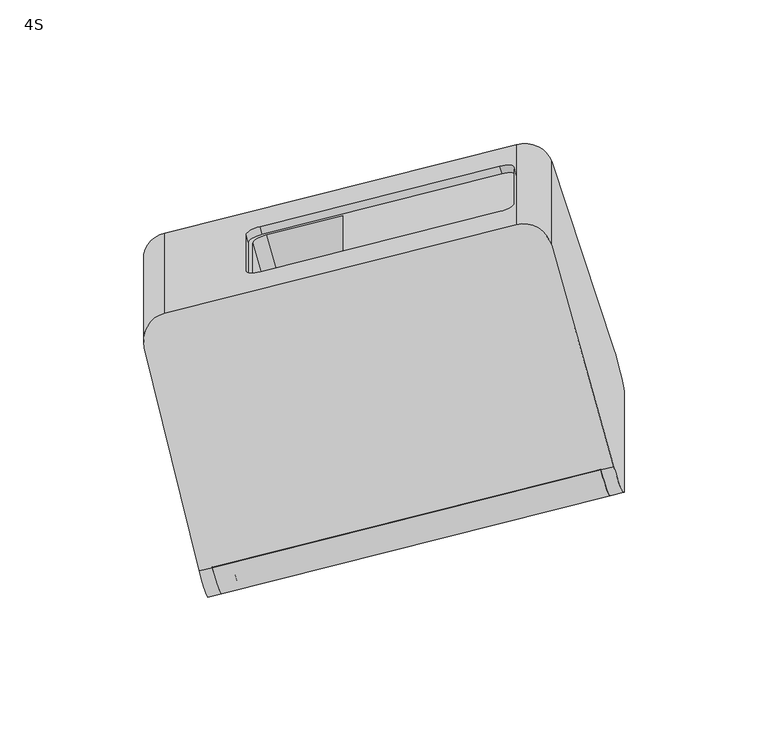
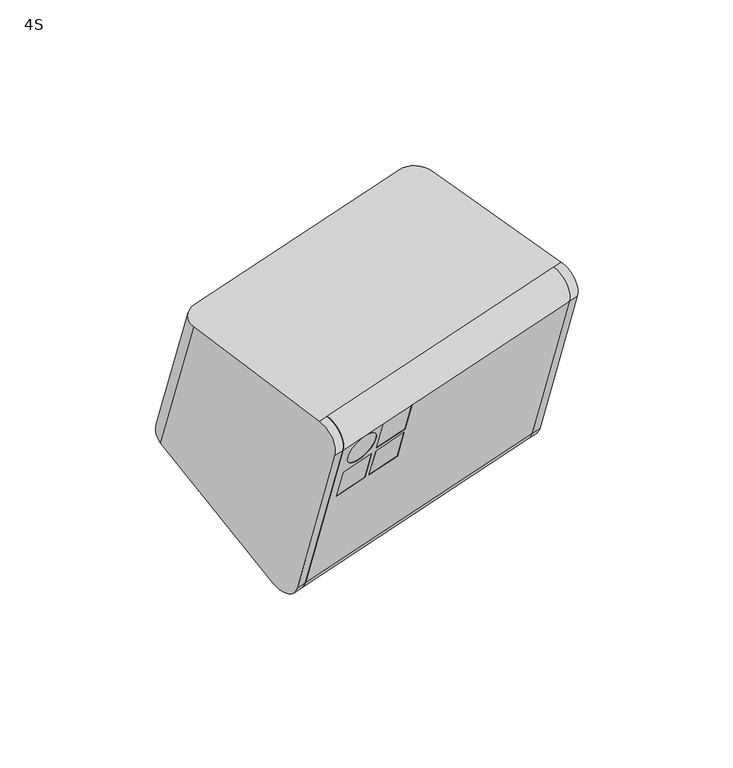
"""IFC4 building model written with IfcOpenShell, lengths in millimetres: proxy geometry, d&b xS-Series 4S Point Source : 4S."""

from ifc_helpers import new_model, si_unit, point, frame, frame_2d, origin, place, context, project, spatial, polyline, circle_curve, ellipse_curve, trimmed, segment, composite_curve, outline, extrude, source, transform, mapped, element, save
from ifc_brep_helpers import plane_surface, cylinder_surface, revolved_surface, advanced_brep


def proxy_4s_2210255e(model_context):
    return source(origin(), model_context, "Body", "SolidModel", [
        extrude(outline(composite_curve([segment(polyline([(-2.2870286, -11.5470263), (-2.2870286, 97.3792888)]), True, "CONTINUOUS"), segment(trimmed(circle_curve(frame_2d((0.0, 91.8322626)), 6.0), [point((-2.2870286, 97.3792888))], [point((6.0, 91.8322626))], False, "CARTESIAN"), True, "CONTINUOUS"), segment(polyline([(6.0, 91.8322626), (6.0, -6.0)]), True, "CONTINUOUS"), segment(trimmed(circle_curve(frame_2d((0.0, -6.0)), 6.0), [point((6.0, -6.0))], [point((-2.2870286, -11.5470263))], False, "CARTESIAN"), True, "CONTINUOUS")], self_intersect=False)), frame((-57.262046, -68.0098405, 20.9168354), z_axis=(0.9659258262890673, 0.24321034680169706, 0.0885213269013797), x_axis=(0.2588190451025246, -0.907673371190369, -0.33036608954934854)), (0.0, 0.0, 1.0), 140.0),
        advanced_brep(
        [(-13.3631889, -63.6428721, 10.0140196), (-14.6572841, -59.1045052, 11.66585), (-31.5609861, -63.3606863, 10.1167268), (-30.2668909, -67.8990532, 8.4648963), (-31.5609861, -69.3460388, 26.5613476), (-30.2668909, -73.8844057, 24.9095172), (-14.6572841, -65.0898578, 28.1104709), (-13.3631889, -69.6282246, 26.4586404), (-13.3631889, -56.8024692, -8.7798329), (-14.6572841, -52.2641024, -7.1280024), (-31.5609861, -56.5202835, -8.6771256), (-30.2668909, -61.0586503, -10.3289561), (-31.5609861, -62.505636, 7.7674952), (-30.2668909, -67.0440028, 6.1156648), (-14.6572841, -58.2494549, 9.3166184), (-13.3631889, -62.7878217, 7.664788), (-32.6817054, -61.6666762, -10.5502594), (-33.9758007, -57.1283093, -8.898429), (-50.8795026, -61.3844904, -10.4475522), (-49.5854074, -65.9228572, -12.0993826), (-50.8795026, -67.3698429, 5.9970687), (-49.5854074, -71.9082098, 4.3452382), (-33.9758007, -63.1136618, 7.5461919), (-32.6817054, -67.6520287, 5.8943615), (-49.5854074, -75.7559364, 14.9167802), (-50.8795026, -71.2175695, 16.5686107), (-33.9758007, -66.9613884, 18.1177339), (-32.6817054, -71.4997553, 16.4659034), (80.8145791, -12.5363154, -56.6183053), (77.3756431, 3.2039746, -62.3394605), (77.3756431, 1.4211613, -57.4412212), (79.5204839, -7.9979486, -54.9664748), (79.5204839, -41.458553, 36.9657804), (77.3756431, -35.8338326, 44.9160332), (77.3756431, -37.6166459, 49.8142725), (80.8145791, -45.9969199, 35.3139499), (-54.4150365, -46.585764, -69.011291), (-54.4150365, -80.0463684, 22.9209641), (-57.8539726, -71.6660944, 37.4212867), (-57.8539726, -69.8832811, 32.5230475), (-55.7091318, -75.5080016, 24.5727946), (-55.7091318, -42.0473971, -67.3594606), (-57.8539726, -32.6282872, -69.834207), (-57.8539726, -30.8454739, -74.7324463)],
        [
            (0, 1),
            (1, 2),
            (2, 3),
            (3, 0),
            (2, 4),
            (4, 5),
            (5, 3),
            (4, 6),
            (6, 7),
            (7, 5),
            (0, 7),
            (6, 1),
            (8, 9),
            (9, 10),
            (10, 11),
            (11, 8),
            (10, 12),
            (12, 13),
            (13, 11),
            (12, 14),
            (14, 15),
            (15, 13),
            (8, 15),
            (14, 9),
            (16, 17),
            (17, 18),
            (18, 19),
            (19, 16),
            (18, 20),
            (20, 21),
            (21, 19),
            (20, 22),
            (22, 23),
            (23, 21),
            (16, 23),
            (22, 17),
            (24, 25),
            (25, 26, circle_curve(frame((-42.4276517, -69.089479, 17.3431723), z_axis=(-0.25881904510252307, 0.9076733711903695, 0.3303660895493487), x_axis=(0.9659258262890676, 0.24321034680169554, 0.08852132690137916)), 8.75)),
            (26, 27),
            (27, 24, circle_curve(frame((-41.1335564, -73.6278458, 15.6913418), z_axis=(0.25881904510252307, -0.9076733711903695, -0.3303660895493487), x_axis=(0.9659258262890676, 0.24321034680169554, 0.08852132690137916)), 8.75)),
            (24, 27, circle_curve(frame((-41.1335564, -73.6278458, 15.6913418), z_axis=(0.25881904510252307, -0.9076733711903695, -0.3303660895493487), x_axis=(0.9659258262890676, 0.24321034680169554, 0.08852132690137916)), 8.75)),
            (26, 25, circle_curve(frame((-42.4276517, -69.089479, 17.3431723), z_axis=(-0.25881904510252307, 0.9076733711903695, 0.3303660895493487), x_axis=(0.9659258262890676, 0.24321034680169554, 0.08852132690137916)), 8.75)),
            (28, 29, circle_curve(frame((77.9675696, -2.5519083, -52.9842783), z_axis=(0.9659258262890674, 0.24321034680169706, 0.08852132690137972), x_axis=(0.25881904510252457, -0.9076733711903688, -0.33036608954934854)), 11.0)),
            (29, 30),
            (30, 31, circle_curve(frame((77.9675696, -2.5519083, -52.9842783), z_axis=(-0.9659258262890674, -0.24321034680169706, -0.08852132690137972), x_axis=(0.25881904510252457, -0.9076733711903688, -0.33036608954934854)), 6.0)),
            (31, 32),
            (32, 33, circle_curve(frame((77.9675696, -36.0125128, 38.9479769), z_axis=(-0.9659258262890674, -0.24321034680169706, -0.08852132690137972), x_axis=(0.25881904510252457, -0.9076733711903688, -0.33036608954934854)), 6.0)),
            (33, 34),
            (34, 35, circle_curve(frame((77.9675696, -36.0125128, 38.9479769), z_axis=(0.9659258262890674, 0.24321034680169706, 0.08852132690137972), x_axis=(0.25881904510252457, -0.9076733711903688, -0.33036608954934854)), 11.0)),
            (35, 28),
            (36, 37),
            (37, 38, circle_curve(frame((-57.262046, -70.0619614, 26.5549911), z_axis=(-0.9659258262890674, -0.24321034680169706, -0.08852132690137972), x_axis=(0.25881904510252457, -0.9076733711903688, -0.33036608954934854)), 11.0)),
            (38, 39),
            (39, 40, circle_curve(frame((-57.262046, -70.0619614, 26.5549911), z_axis=(0.9659258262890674, 0.24321034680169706, 0.08852132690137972), x_axis=(0.25881904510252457, -0.9076733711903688, -0.33036608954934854)), 6.0)),
            (40, 41),
            (41, 42, circle_curve(frame((-57.262046, -36.6013569, -65.3772641), z_axis=(0.9659258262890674, 0.24321034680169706, 0.08852132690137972), x_axis=(0.25881904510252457, -0.9076733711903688, -0.33036608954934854)), 6.0)),
            (42, 43),
            (43, 36, circle_curve(frame((-57.262046, -36.6013569, -65.3772641), z_axis=(-0.9659258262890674, -0.24321034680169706, -0.08852132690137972), x_axis=(0.25881904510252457, -0.9076733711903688, -0.33036608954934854)), 11.0)),
            (28, 36),
            (43, 29),
            (42, 30),
            (41, 31),
            (40, 32),
            (39, 33),
            (38, 34),
            (37, 35),
        ],
        [
            plane_surface(frame((-30.2668909, -67.8990532, 8.4648963), z_axis=(0.0, -0.34202014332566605, 0.9396926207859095), x_axis=(-0.258819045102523, 0.9076733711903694, 0.3303660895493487))),
            plane_surface(frame((-30.2668909, -73.8844057, 24.9095172), z_axis=(0.9659258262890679, 0.24321034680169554, 0.08852132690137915), x_axis=(-0.258819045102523, 0.9076733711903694, 0.3303660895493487))),
            plane_surface(frame((-13.3631889, -69.6282246, 26.4586404), z_axis=(0.0, 0.34202014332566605, -0.9396926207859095), x_axis=(-0.258819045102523, 0.9076733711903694, 0.3303660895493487))),
            plane_surface(frame((-13.3631889, -63.6428721, 10.0140196), z_axis=(-0.9659258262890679, -0.24321034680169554, -0.08852132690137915), x_axis=(-0.258819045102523, 0.9076733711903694, 0.3303660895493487))),
            plane_surface(frame((-30.2668909, -61.0586503, -10.3289561), z_axis=(0.0, -0.34202014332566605, 0.9396926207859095), x_axis=(-0.258819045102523, 0.9076733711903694, 0.3303660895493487))),
            plane_surface(frame((-30.2668909, -67.0440028, 6.1156648), z_axis=(0.9659258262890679, 0.24321034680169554, 0.08852132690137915), x_axis=(-0.258819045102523, 0.9076733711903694, 0.3303660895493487))),
            plane_surface(frame((-13.3631889, -62.7878217, 7.664788), z_axis=(0.0, 0.34202014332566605, -0.9396926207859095), x_axis=(-0.258819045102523, 0.9076733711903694, 0.3303660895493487))),
            plane_surface(frame((-13.3631889, -56.8024692, -8.7798329), z_axis=(-0.9659258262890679, -0.24321034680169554, -0.08852132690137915), x_axis=(-0.258819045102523, 0.9076733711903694, 0.3303660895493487))),
            plane_surface(frame((-49.5854074, -65.9228572, -12.0993826), z_axis=(0.0, -0.34202014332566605, 0.9396926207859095), x_axis=(-0.258819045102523, 0.9076733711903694, 0.3303660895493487))),
            plane_surface(frame((-49.5854074, -71.9082098, 4.3452382), z_axis=(0.9659258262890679, 0.24321034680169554, 0.08852132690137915), x_axis=(-0.258819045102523, 0.9076733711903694, 0.3303660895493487))),
            plane_surface(frame((-32.6817054, -67.6520287, 5.8943615), z_axis=(0.0, 0.34202014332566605, -0.9396926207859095), x_axis=(-0.258819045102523, 0.9076733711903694, 0.3303660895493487))),
            plane_surface(frame((-32.6817054, -61.6666762, -10.5502594), z_axis=(-0.9659258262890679, -0.24321034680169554, -0.08852132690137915), x_axis=(-0.258819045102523, 0.9076733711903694, 0.3303660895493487))),
            revolved_surface(polyline([(-32.68170542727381, -71.49975533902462, 16.465903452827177), (-33.97580067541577, -66.96138840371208, 18.11773392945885)]), (-17.5169117, -156.4509608, -14.4538067), (0.258819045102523, -0.9076733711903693, -0.33036608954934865)),
            plane_surface(frame((80.8145791, -12.5363154, -56.6183053), z_axis=(0.9659258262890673, 0.24321034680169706, 0.0885213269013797), x_axis=(0.0, 0.342020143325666, -0.9396926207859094))),
            plane_surface(frame((-54.4150365, -46.585764, -69.011291), z_axis=(-0.9659258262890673, -0.24321034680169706, -0.0885213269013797), x_axis=(0.0, -0.342020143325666, 0.9396926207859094))),
            cylinder_surface(frame((-57.262046, -36.6013569, -65.3772641), z_axis=(0.9659258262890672, 0.243210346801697, 0.0885213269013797), x_axis=(0.25881904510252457, -0.9076733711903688, -0.33036608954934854)), 11.0),
            plane_surface(frame((77.3756431, 3.2039746, -62.3394605), z_axis=(-0.2588190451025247, 0.9076733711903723, 0.3303660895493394), x_axis=(-0.9659258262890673, -0.24321034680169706, -0.08852132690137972))),
            revolved_surface(polyline([(-55.70913178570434, -42.04739714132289, -67.35946064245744), (79.52048393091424, -7.997948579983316, -54.96647487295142)]), (-57.262046, -36.6013569, -65.3772641), (-0.9659258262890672, -0.243210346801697, -0.0885213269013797)),
            plane_surface(frame((79.5204839, -7.9979486, -54.9664748), z_axis=(-0.2588190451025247, 0.9076733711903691, 0.3303660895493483), x_axis=(-0.9659258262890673, -0.24321034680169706, -0.08852132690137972))),
            revolved_surface(polyline([(-55.70913178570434, -75.5080016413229, 24.572794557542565), (79.52048393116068, -41.45855307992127, 36.965780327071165)]), (-57.262046, -70.0619614, 26.5549911), (-0.9659258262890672, -0.243210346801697, -0.0885213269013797)),
            plane_surface(frame((77.3756431, -35.8338326, 44.9160332), z_axis=(-0.2588190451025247, 0.9076733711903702, 0.33036608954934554), x_axis=(-0.9659258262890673, -0.24321034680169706, -0.08852132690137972))),
            cylinder_surface(frame((-57.262046, -70.0619614, 26.5549911), z_axis=(0.9659258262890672, 0.243210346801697, 0.0885213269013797), x_axis=(0.25881904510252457, -0.9076733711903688, -0.33036608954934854)), 11.0),
            plane_surface(frame((80.8145791, -45.9969199, 35.3139499), z_axis=(0.2588190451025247, -0.907673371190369, -0.3303660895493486), x_axis=(-0.9659258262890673, -0.24321034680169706, -0.08852132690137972))),
        ],
        [
            (0, [[1, 2, 3, 4]]),
            (1, [[-3, 5, 6, 7]]),
            (2, [[-6, 8, 9, 10]]),
            (3, [[-1, 11, -9, 12]]),
            (4, [[13, 14, 15, 16]]),
            (5, [[-15, 17, 18, 19]]),
            (6, [[-18, 20, 21, 22]]),
            (7, [[-13, 23, -21, 24]]),
            (8, [[25, 26, 27, 28]]),
            (9, [[-27, 29, 30, 31]]),
            (10, [[-30, 32, 33, 34]]),
            (11, [[-25, 35, -33, 36]]),
            (12, [[37, 38, 39, 40]]),
            (12, [[-37, 41, -39, 42]]),
            (13, [[43, 44, 45, 46, 47, 48, 49, 50]]),
            (14, [[51, 52, 53, 54, 55, 56, 57, 58]]),
            (15, [[-43, 59, -58, 60]]),
            (16, [[-44, -60, -57, 61]]),
            (17, [[-45, -61, -56, 62]]),
            (18, [[-46, -62, -55, 63], [-2, -12, -8, -5], [-14, -24, -20, -17], [-26, -36, -32, -29], [-38, -42]]),
            (19, [[-47, -63, -54, 64]]),
            (20, [[-48, -64, -53, 65]]),
            (21, [[-49, -65, -52, 66]]),
            (22, [[-50, -66, -51, -59], [-4, -7, -10, -11], [-16, -19, -22, -23], [-28, -31, -34, -35], [-40, -41]]),
        ],
    ),
        extrude(outline(polyline([(-1e-07, -17.5), (0.0, 0.0), (5.0, 0.0), (5.0, -17.5000001), (-1e-07, -17.5)])), frame((-30.2668909, -67.8939267, 8.4508115), z_axis=(0.0, -0.34202014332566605, 0.9396926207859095), x_axis=(-0.258819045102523, 0.9076733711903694, 0.3303660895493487)), (0.0, 0.0, 1.0), 17.5),
        extrude(outline(polyline([(0.0, -17.5), (0.0, 0.0), (5.0000001, 0.0), (5.0000001, -17.5000001), (0.0, -17.5)])), frame((-30.2668909, -61.0535239, -10.3430409), z_axis=(0.0, -0.34202014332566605, 0.9396926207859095), x_axis=(-0.258819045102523, 0.9076733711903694, 0.3303660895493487)), (0.0, 0.0, 1.0), 17.5),
        extrude(outline(polyline([(0.0, -17.5), (0.0, 0.0), (5.0, 0.0), (5.0, -17.5), (0.0, -17.5)])), frame((-49.5854074, -65.9177308, -12.1134674), z_axis=(0.0, -0.34202014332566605, 0.9396926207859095), x_axis=(-0.258819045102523, 0.9076733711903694, 0.3303660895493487)), (0.0, 0.0, 1.0), 17.5),
        extrude(outline(composite_curve([segment(trimmed(circle_curve(frame_2d((-8.75, -28.75)), 8.75), [point((-8.75, -37.5))], [point((-8.7500001, -20.0))], False, "CARTESIAN"), True, "CONTINUOUS"), segment(trimmed(circle_curve(frame_2d((-8.75, -28.75)), 8.75), [point((-8.7500001, -20.0))], [point((-8.75, -37.5))], False, "CARTESIAN"), True, "CONTINUOUS")], self_intersect=False)), frame((-13.3631889, -69.6230982, 26.4445556), z_axis=(-0.25881904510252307, 0.9076733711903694, 0.3303660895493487), x_axis=(0.0, -0.342020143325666, 0.9396926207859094)), (0.0, 0.0, 1.0), 5.0),
        advanced_brep(
        [(43.0496763, 49.6485011, 42.6116789), (47.8793054, 52.5746536, 38.3558224), (47.8793054, 64.9291686, 4.4120713), (43.0496763, 65.4232176, -0.7289985), (-40.4941742, 44.3877216, -8.3852929), (-45.3238033, 41.4615692, -4.1294364), (-45.3238033, 29.1070541, 29.8143147), (-40.4941742, 28.6130051, 34.9553845), (-43.8075469, 30.0257162, 28.4781936), (-43.8075469, 41.3064631, -2.5154036), (-38.9779178, 44.2326155, -6.7712601), (-12.5010231, 50.8992296, -4.344811), (-12.5010231, 36.1982814, 36.0457125), (-38.9779178, 29.5316672, 33.6192634), (42.2732192, 52.3715212, 43.6027771), (47.1028483, 55.2976737, 39.3469207), (47.1028483, 67.6521887, 5.4031696), (42.2732192, 68.1462377, 0.2620998), (-41.2706313, 47.1107417, -7.3941946), (-46.1002604, 44.1845893, -3.1383381), (-46.1002604, 31.8300742, 30.805413), (-41.2706313, 31.3360253, 35.9464827), (-39.6664422, 26.7836891, -7.801261), (-39.6664422, 15.5029423, 23.1923362), (-34.8368131, 15.0088933, 28.3334059), (-8.3599184, 21.6755074, 30.759855), (-8.3599184, 36.3764557, -9.6306684), (-34.8368131, 29.7098416, -12.0571175), (80.8145791, -12.5363154, -56.6183053), (80.8145791, -45.9969199, 35.3139499), (77.3756431, -37.6166459, 49.8142725), (77.3756431, 3.2039746, -62.3394605), (-54.4150365, -46.585764, -69.011291), (-57.8539726, -30.8454739, -74.7324463), (-57.8539726, -71.6660944, 37.4212867), (-54.4150365, -80.0463684, 22.9209641), (-62.4109655, -31.9928786, -75.1500674), (-81.5317164, 34.1986651, -33.215143), (-74.4180399, 44.8382006, -27.1191476), (48.024575, 75.6680118, -15.898014), (60.2266227, 69.8919801, -20.2238387), (81.9387137, 4.3529096, -61.9212824), (-81.5317164, 4.847415, 47.4267539), (-62.4109655, -72.8134991, 37.0036656), (81.9387137, -36.4677109, 50.2324506), (60.2266227, 40.54073, 60.4180581), (48.024575, 47.7460135, 60.8170457), (-74.4180399, 16.9162024, 49.5959121), (85.595892, -11.3324292, -56.1801265), (85.595892, -44.7930337, 35.7521287), (-59.1902717, -47.7881199, -69.4489128), (-59.1902717, -81.2487243, 22.4833424)],
        [
            (0, 1, circle_curve(frame((43.0496763, 51.3586018, 37.9132158), z_axis=(-0.2588190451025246, 0.9076733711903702, 0.33036608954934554), x_axis=(0.0, -0.34202014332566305, 0.9396926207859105)), 5.0)),
            (1, 2),
            (2, 3, circle_curve(frame((43.0496763, 63.7131169, 3.9694647), z_axis=(-0.2588190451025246, 0.9076733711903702, 0.33036608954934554), x_axis=(0.0, -0.34202014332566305, 0.9396926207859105)), 5.0)),
            (3, 4),
            (4, 5, circle_curve(frame((-40.4941742, 42.6776209, -3.6868298), z_axis=(-0.2588190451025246, 0.9076733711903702, 0.33036608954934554), x_axis=(0.0, -0.34202014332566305, 0.9396926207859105)), 5.0)),
            (5, 6),
            (6, 7, circle_curve(frame((-40.4941742, 30.3231059, 30.2569214), z_axis=(-0.2588190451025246, 0.9076733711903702, 0.33036608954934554), x_axis=(0.0, -0.34202014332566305, 0.9396926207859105)), 5.0)),
            (7, 0),
            (8, 9),
            (9, 10, circle_curve(frame((-38.9779178, 42.5225148, -2.072797), z_axis=(0.2588190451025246, -0.9076733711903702, -0.33036608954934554), x_axis=(0.0, -0.34202014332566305, 0.9396926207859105)), 5.0)),
            (10, 11),
            (11, 12),
            (12, 13),
            (13, 8, circle_curve(frame((-38.9779178, 31.241768, 28.9208003), z_axis=(0.2588190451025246, -0.9076733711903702, -0.33036608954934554), x_axis=(0.0, -0.34202014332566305, 0.9396926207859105)), 5.0)),
            (0, 14),
            (14, 15, circle_curve(frame((42.2732192, 54.081622, 38.904314), z_axis=(-0.2588190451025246, 0.9076733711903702, 0.33036608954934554), x_axis=(0.0, -0.34202014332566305, 0.9396926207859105)), 5.0)),
            (15, 1),
            (15, 16),
            (16, 2),
            (16, 17, circle_curve(frame((42.2732192, 66.436137, 4.9605629), z_axis=(-0.2588190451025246, 0.9076733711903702, 0.33036608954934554), x_axis=(0.0, -0.34202014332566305, 0.9396926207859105)), 5.0)),
            (17, 3),
            (17, 18),
            (18, 4),
            (18, 19, circle_curve(frame((-41.2706313, 45.400641, -2.6957315), z_axis=(-0.2588190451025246, 0.9076733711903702, 0.33036608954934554), x_axis=(0.0, -0.34202014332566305, 0.9396926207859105)), 5.0)),
            (19, 5),
            (19, 20),
            (20, 6),
            (20, 21, circle_curve(frame((-41.2706313, 33.046126, 31.2480196), z_axis=(-0.2588190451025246, 0.9076733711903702, 0.33036608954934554), x_axis=(0.0, -0.34202014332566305, 0.9396926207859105)), 5.0)),
            (21, 7),
            (21, 14),
            (22, 23),
            (23, 24, circle_curve(frame((-34.8368131, 16.718994, 23.6349428), z_axis=(-0.2588190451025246, 0.9076733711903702, 0.33036608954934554), x_axis=(0.0, -0.34202014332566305, 0.9396926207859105)), 5.0)),
            (24, 25),
            (25, 26),
            (26, 27),
            (27, 22, circle_curve(frame((-34.8368131, 27.9997409, -7.3586544), z_axis=(-0.2588190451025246, 0.9076733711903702, 0.33036608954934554), x_axis=(0.0, -0.34202014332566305, 0.9396926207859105)), 5.0)),
            (28, 29),
            (29, 30, circle_curve(frame((77.9675696, -36.0125128, 38.9479769), z_axis=(-0.9659258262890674, -0.24321034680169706, -0.08852132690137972), x_axis=(0.25881904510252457, -0.9076733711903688, -0.33036608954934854)), 11.0)),
            (30, 31),
            (31, 28, circle_curve(frame((77.9675696, -2.5519083, -52.9842783), z_axis=(-0.9659258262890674, -0.24321034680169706, -0.08852132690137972), x_axis=(0.25881904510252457, -0.9076733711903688, -0.33036608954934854)), 11.0)),
            (32, 33, circle_curve(frame((-57.262046, -36.6013569, -65.3772641), z_axis=(0.9659258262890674, 0.24321034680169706, 0.08852132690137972), x_axis=(0.25881904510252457, -0.9076733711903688, -0.33036608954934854)), 11.0)),
            (33, 34),
            (34, 35, circle_curve(frame((-57.262046, -70.0619614, 26.5549911), z_axis=(0.9659258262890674, 0.24321034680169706, 0.08852132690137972), x_axis=(0.25881904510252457, -0.9076733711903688, -0.33036608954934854)), 11.0)),
            (35, 32),
            (22, 9),
            (8, 23),
            (13, 24),
            (12, 25),
            (11, 26),
            (10, 27),
            (36, 37),
            (37, 38, ellipse_curve(frame((-71.8298495, 36.4884532, -32.4201868), z_axis=(-0.05381150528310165, 0.5232620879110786, -0.8504711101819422), x_axis=(-0.2531632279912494, 0.816728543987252, 0.5185198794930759)), 10.2234059, 10.0)),
            (38, 39),
            (39, 40, ellipse_curve(frame((50.6127655, 67.3182644, -21.1990532), z_axis=(-0.05381150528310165, 0.5232620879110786, -0.8504711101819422), x_axis=(-0.2531632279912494, 0.816728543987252, 0.5185198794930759)), 10.2234059, 10.0)),
            (40, 41),
            (41, 31),
            (31, 33),
            (33, 36),
            (30, 34),
            (42, 43),
            (43, 34),
            (30, 44),
            (44, 45),
            (45, 46, ellipse_curve(frame((50.6127655, 37.9422936, 59.5107632), z_axis=(-0.05381150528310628, -0.14583027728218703, 0.9878450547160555), x_axis=(0.2531632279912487, -0.9589485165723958, -0.12777371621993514)), 10.2234059, 10.0)),
            (46, 47),
            (47, 42, ellipse_curve(frame((-71.8298495, 7.1124824, 48.2896296), z_axis=(-0.05381150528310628, -0.14583027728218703, 0.9878450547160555), x_axis=(0.2531632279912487, -0.9589485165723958, -0.12777371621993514)), 10.2234059, 10.0)),
            (38, 47),
            (46, 39),
            (41, 48, ellipse_curve(frame((82.5682052, -1.3935149, -52.5626576), z_axis=(-0.9613857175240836, -0.2586076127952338, -0.09412547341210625), x_axis=(0.2752044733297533, -0.9034070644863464, -0.3288132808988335)), 11.0015903, 11.0)),
            (48, 28),
            (29, 49),
            (49, 44, ellipse_curve(frame((82.5682052, -34.8541193, 39.3695976), z_axis=(-0.9613857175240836, -0.2586076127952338, -0.09412547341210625), x_axis=(0.2752044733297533, -0.9034070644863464, -0.3288132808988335)), 11.0015903, 11.0)),
            (48, 49),
            (32, 50),
            (50, 36, ellipse_curve(frame((-61.8566038, -37.75822, -65.7983278), z_axis=(0.9701866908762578, 0.22774276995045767, 0.08289158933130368), x_axis=(-0.24235879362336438, 0.9116772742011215, 0.3318233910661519)), 11.0015903, 11.0)),
            (43, 51, ellipse_curve(frame((-61.8566038, -71.2188245, 26.1339274), z_axis=(0.9701866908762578, 0.22774276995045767, 0.08289158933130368), x_axis=(-0.24235879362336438, 0.9116772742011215, 0.3318233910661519)), 11.0015903, 11.0)),
            (51, 35),
            (51, 50),
            (40, 45),
            (42, 37),
        ],
        [
            plane_surface(frame((43.0496763, 49.6485011, 42.6116789), z_axis=(-0.2588190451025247, 0.9076733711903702, 0.33036608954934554), x_axis=(-0.9659258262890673, -0.24321034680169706, -0.08852132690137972))),
            revolved_surface(polyline([(42.27321915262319, 52.37152123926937, 43.60277718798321), (43.0496763, 49.648501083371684, 42.61167890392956)]), (43.0496763, 51.3586018, 37.9132158), (-0.25881904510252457, 0.90767337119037, 0.3303660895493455)),
            plane_surface(frame((47.1028483, 55.2976737, 39.3469207), z_axis=(-0.9659258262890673, -0.24321034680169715, -0.08852132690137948), x_axis=(0.2588190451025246, -0.907673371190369, -0.33036608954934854))),
            revolved_surface(polyline([(42.27321917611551, 64.72603625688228, 9.659026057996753), (43.04967631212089, 62.003016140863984, 8.667927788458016)]), (43.0496763, 63.7131169, 3.9694647), (-0.25881904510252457, 0.90767337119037, 0.3303660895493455)),
            plane_surface(frame((42.2732192, 68.1462377, 0.2620998), z_axis=(0.0, -0.3420201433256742, 0.9396926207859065), x_axis=(0.2588190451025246, -0.907673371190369, -0.33036608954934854))),
            revolved_surface(polyline([(-41.270631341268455, 43.69054031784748, 2.002731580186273), (-40.494174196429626, 40.967520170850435, 1.0116332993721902)]), (-40.4941742, 42.6776209, -3.6868298), (-0.25881904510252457, 0.90767337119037, 0.3303660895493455)),
            plane_surface(frame((-46.1002604, 44.1845893, -3.1383381), z_axis=(0.9659258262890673, 0.24321034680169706, 0.0885213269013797), x_axis=(0.2588190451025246, -0.907673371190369, -0.33036608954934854))),
            revolved_surface(polyline([(-41.27063132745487, 31.33602526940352, 35.94648276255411), (-40.49417417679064, 28.6130051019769, 34.95538447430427)]), (-40.4941742, 30.3231059, 30.2569214), (-0.25881904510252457, 0.90767337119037, 0.3303660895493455)),
            plane_surface(frame((-41.2706313, 31.3360253, 35.9464827), z_axis=(0.0, 0.3420201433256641, -0.9396926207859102), x_axis=(0.2588190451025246, -0.907673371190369, -0.33036608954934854))),
            plane_surface(frame((-39.6664422, 17.7231143, 17.0924638), z_axis=(-0.2588190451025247, 0.9076733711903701, 0.3303660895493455), x_axis=(0.0, 0.34202014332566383, -0.9396926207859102))),
            plane_surface(frame((80.8145791, -12.5363154, -56.6183053), z_axis=(-0.9659258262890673, -0.24321034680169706, -0.0885213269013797), x_axis=(0.0, -0.342020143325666, 0.9396926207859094))),
            plane_surface(frame((-54.4150365, -46.585764, -69.011291), z_axis=(0.9659258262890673, 0.24321034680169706, 0.0885213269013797), x_axis=(0.0, 0.342020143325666, -0.9396926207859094))),
            plane_surface(frame((-44.5840041, 44.0294832, -1.5243053), z_axis=(0.9659258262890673, 0.24321034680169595, 0.08852132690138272), x_axis=(0.2588190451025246, -0.9076733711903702, -0.33036608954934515))),
            revolved_surface(polyline([(-38.97791784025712, 29.531667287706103, 33.61926336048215), (-34.8368131, 15.008893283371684, 28.333405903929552)]), (-34.8368131, 16.718994, 23.6349428), (-0.25881904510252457, 0.90767337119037, 0.3303660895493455)),
            plane_surface(frame((-39.7543749, 32.2546874, 34.6103616), z_axis=(0.0, 0.3420201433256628, -0.9396926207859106), x_axis=(0.2588190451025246, -0.9076733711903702, -0.33036608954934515))),
            plane_surface(frame((-13.2774802, 38.9213015, 37.0368107), z_axis=(-0.9659258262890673, -0.24321034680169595, -0.08852132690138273), x_axis=(0.2588190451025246, -0.9076733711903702, -0.33036608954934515))),
            plane_surface(frame((-13.2774802, 53.6222498, -3.3537127), z_axis=(0.0, -0.34202014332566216, 0.9396926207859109), x_axis=(0.2588190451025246, -0.9076733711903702, -0.33036608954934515))),
            revolved_surface(polyline([(-38.97791781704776, 40.81241410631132, 2.6256661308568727), (-34.83681308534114, 26.28964013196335, -2.6601913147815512)]), (-34.8368131, 27.9997409, -7.3586544), (-0.25881904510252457, 0.90767337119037, 0.3303660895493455)),
            plane_surface(frame((-85.5898143, 42.0252609, -28.142974), z_axis=(-0.05381150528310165, 0.5232620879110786, -0.8504711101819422), x_axis=(0.9659258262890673, 0.24321034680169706, 0.08852132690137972))),
            plane_surface(frame((-62.6292077, -32.0478298, -75.170068), z_axis=(0.2588190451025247, -0.907673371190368, -0.3303660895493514), x_axis=(0.9659258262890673, 0.24321034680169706, 0.08852132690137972))),
            plane_surface(frame((-62.6292077, -72.8684503, 36.983665), z_axis=(-0.05381150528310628, -0.14583027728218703, 0.9878450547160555), x_axis=(0.9659258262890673, 0.24321034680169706, 0.08852132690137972))),
            plane_surface(frame((-85.5898143, 14.1032626, 48.5720858), z_axis=(-0.2588190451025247, 0.907673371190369, 0.33036608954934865), x_axis=(0.9659258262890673, 0.24321034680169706, 0.08852132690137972))),
            cylinder_surface(frame((77.9675696, -2.5519083, -52.9842783), z_axis=(0.9659258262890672, 0.243210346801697, 0.0885213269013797), x_axis=(0.25881904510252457, -0.9076733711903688, -0.33036608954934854)), 11.0),
            cylinder_surface(frame((77.9675696, -36.0125128, 38.9479769), z_axis=(0.9659258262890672, 0.243210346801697, 0.0885213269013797), x_axis=(0.25881904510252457, -0.9076733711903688, -0.33036608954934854)), 11.0),
            plane_surface(frame((85.595892, -44.7930337, 35.7521287), z_axis=(0.2588190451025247, -0.907673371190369, -0.3303660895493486), x_axis=(-0.9659258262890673, -0.24321034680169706, -0.08852132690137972))),
            cylinder_surface(frame((-62.0372812, -37.8037128, -65.8148858), z_axis=(0.9659258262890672, 0.243210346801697, 0.0885213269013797), x_axis=(0.25881904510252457, -0.9076733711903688, -0.33036608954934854)), 11.0),
            cylinder_surface(frame((-62.0372812, -71.2643172, 26.1173694), z_axis=(0.9659258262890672, 0.243210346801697, 0.0885213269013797), x_axis=(0.25881904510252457, -0.9076733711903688, -0.33036608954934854)), 11.0),
            plane_surface(frame((-54.4150365, -80.0463684, 22.9209641), z_axis=(0.2588190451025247, -0.907673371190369, -0.3303660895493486), x_axis=(-0.9659258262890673, -0.24321034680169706, -0.08852132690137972))),
            plane_surface(frame((87.3054167, -11.4432376, -73.3365531), z_axis=(0.9613857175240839, 0.25860761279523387, 0.09412547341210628), x_axis=(0.0, -0.342020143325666, 0.9396926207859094))),
            cylinder_surface(frame((50.6127655, 30.3989696, 80.2358753), z_axis=(0.0, -0.342020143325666, 0.9396926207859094), x_axis=(-0.25881904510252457, 0.9076733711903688, 0.33036608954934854)), 10.0),
            plane_surface(frame((-81.5317164, 41.7543494, -53.9742149), z_axis=(-0.9701866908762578, -0.22774276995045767, -0.08289158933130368), x_axis=(0.0, -0.342020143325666, 0.9396926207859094))),
            cylinder_surface(frame((-71.8298495, -0.4308415, 69.0147417), z_axis=(0.0, -0.342020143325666, 0.9396926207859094), x_axis=(-0.25881904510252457, 0.9076733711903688, 0.33036608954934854)), 10.0),
        ],
        [
            (0, [[1, 2, 3, 4, 5, 6, 7, 8], [9, 10, 11, 12, 13, 14]]),
            (1, [[-1, 15, 16, 17]]),
            (2, [[-2, -17, 18, 19]]),
            (3, [[-3, -19, 20, 21]]),
            (4, [[-4, -21, 22, 23]]),
            (5, [[-5, -23, 24, 25]]),
            (6, [[-6, -25, 26, 27]]),
            (7, [[-7, -27, 28, 29]]),
            (8, [[-8, -29, 30, -15]]),
            (9, [[31, 32, 33, 34, 35, 36]]),
            (10, [[37, 38, 39, 40]]),
            (11, [[41, 42, 43, 44]]),
            (12, [[-31, 45, -9, 46]]),
            (13, [[-32, -46, -14, 47]]),
            (14, [[-33, -47, -13, 48]]),
            (15, [[-34, -48, -12, 49]]),
            (16, [[-35, -49, -11, 50]]),
            (17, [[-36, -50, -10, -45]]),
            (18, [[51, 52, 53, 54, 55, 56, 57, 58]]),
            (19, [[-39, 59, -42, -57]]),
            (20, [[60, 61, -59, 62, 63, 64, 65, 66]]),
            (21, [[67, -65, 68, -53], [-16, -30, -28, -26, -24, -22, -20, -18]]),
            (22, [[-40, -56, 69, 70]]),
            (23, [[-38, 71, 72, -62]]),
            (24, [[-37, -70, 73, -71]]),
            (25, [[-41, 74, 75, -58]]),
            (26, [[-43, -61, 76, 77]]),
            (27, [[-44, -77, 78, -74]]),
            (28, [[79, -63, -72, -73, -69, -55]]),
            (29, [[-79, -54, -68, -64]]),
            (30, [[80, -51, -75, -78, -76, -60]]),
            (31, [[-80, -66, -67, -52]]),
        ],
    ),
    ])


if __name__ == "__main__":
    model = new_model("IFC4")
    model_context = context("Model", 3, world=origin())
    ifc_project = project(units=[si_unit("LENGTHUNIT", "METRE", prefix="MILLI")], contexts=[model_context])
    site = spatial("IfcSite", under=ifc_project)
    building = spatial("IfcBuilding", under=site)
    placement = place(None, origin())
    proxy_4s_shape = proxy_4s_2210255e(model_context)
    element("IfcBuildingElementProxy", 1, Name="d&b xS-Series 4S Point Source : 4S", ObjectType="d&b xS-Series 4S Point Source : 4S", at=placement, inside=building, context=model_context, shape_type="MappedRepresentation", body=[
        mapped(proxy_4s_shape, transform((0.0, 0.0, 0.0), x_axis=(1.0, 0.0, 0.0), y_axis=(0.0, 1.0, 0.0), z_axis=(0.0, 0.0, 1.0))),
    ])
    save(model, "model.ifc")
